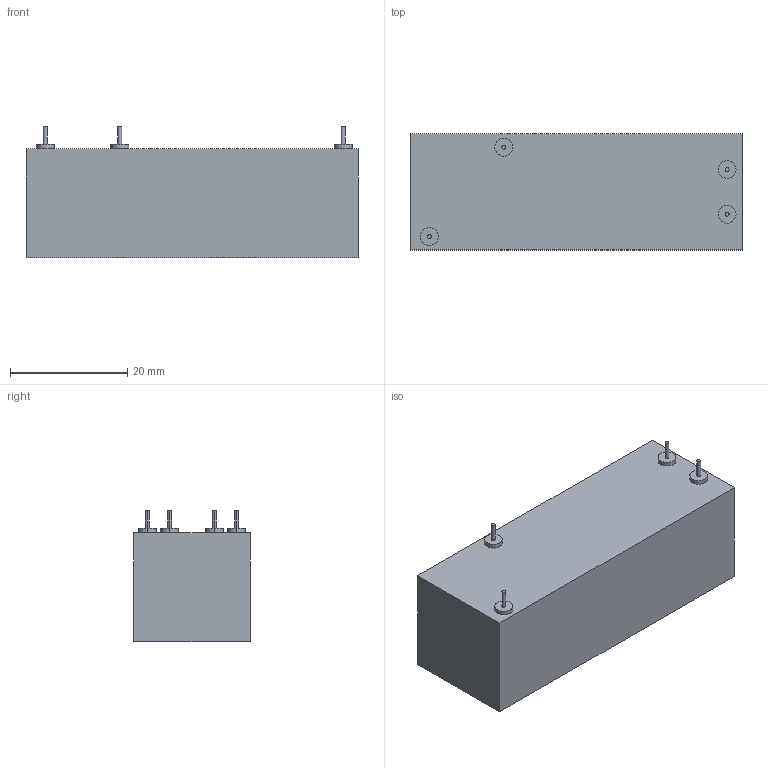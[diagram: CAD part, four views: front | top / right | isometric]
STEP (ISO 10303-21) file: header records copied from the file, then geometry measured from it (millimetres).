
FILE_DESCRIPTION((''),'2;1');
FILE_NAME('C-2-1618241-8','2014-10-30T',('workeradm'),('Tyco Electronics Ltd.'),'PRO/ENGINEER BY PARAMETRIC TECHNOLOGY CORPORATION, 2014090','PRO/ENGINEER BY PARAMETRIC TECHNOLOGY CORPORATION, 2014090','');
FILE_SCHEMA(('AUTOMOTIVE_DESIGN { 1 0 10303 214 1 1 1 1 }'));
Length unit declared in the file: millimetre
Products named in the file (1): C-2-1618241-8
Bounding box: 56.64 x 19.81 x 22.35 mm (x, y, z)
Volume: 20834.1 mm3; surface area: 5134.1 mm2
Topology: 1 solids, 1 shells, 30 faces, 60 edges, 40 vertices
Faces by surface type: cylinder 16, plane 14
Entity records: 972 total; most frequent: DIRECTION 152, CARTESIAN_POINT 132, COLOUR_RGB 126, ORIENTED_EDGE 120, AXIS2_PLACEMENT_3D 62, EDGE_CURVE 60, VERTEX_POINT 40, EDGE_LOOP 38
